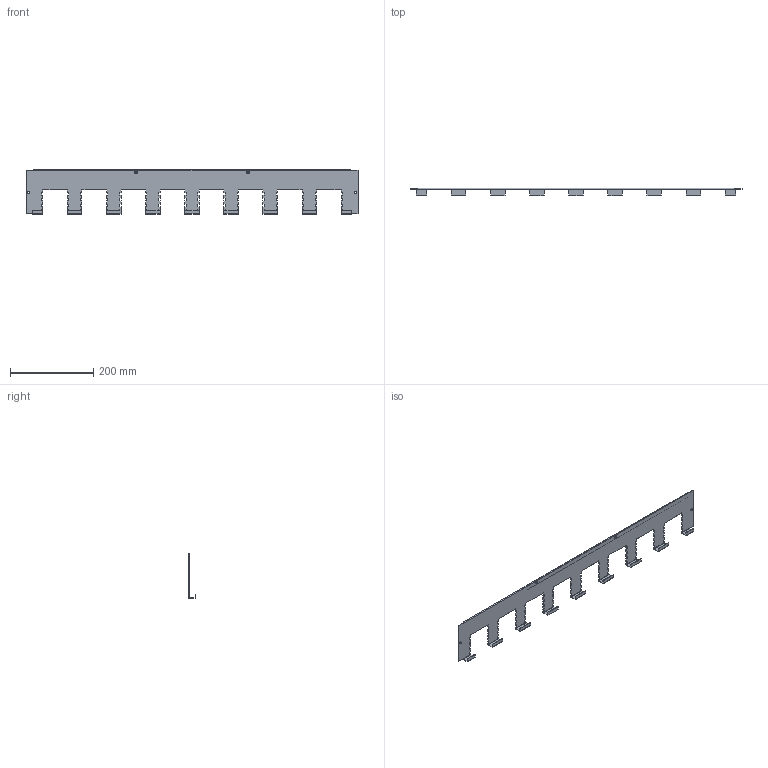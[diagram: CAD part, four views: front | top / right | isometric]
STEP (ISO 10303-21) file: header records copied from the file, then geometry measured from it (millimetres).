
FILE_DESCRIPTION (( 'STEP AP203' ), '1' );
FILE_NAME ('QB04C078.STEP', '2017-08-29T14:11:08', ( '' ), ( '' ), 'SwSTEP 2.0', 'SolidWorks 2016', '' );
FILE_SCHEMA (( 'CONFIG_CONTROL_DESIGN' ));
Length unit declared in the file: millimetre
Products named in the file (1): QB04C078
Bounding box: 800 x 18.75 x 108 mm (x, y, z)
Volume: 97996.8 mm3; surface area: 150201.7 mm2
Topology: 1 solids, 1 shells, 462 faces, 1234 edges, 774 vertices
Faces by surface type: plane 412, cylinder 50
Entity records: 14093 total; most frequent: CARTESIAN_POINT 2471, ORIENTED_EDGE 2468, DIRECTION 2262, EDGE_CURVE 1234, VECTOR 1132, LINE 1132, VERTEX_POINT 774, AXIS2_PLACEMENT_3D 565
